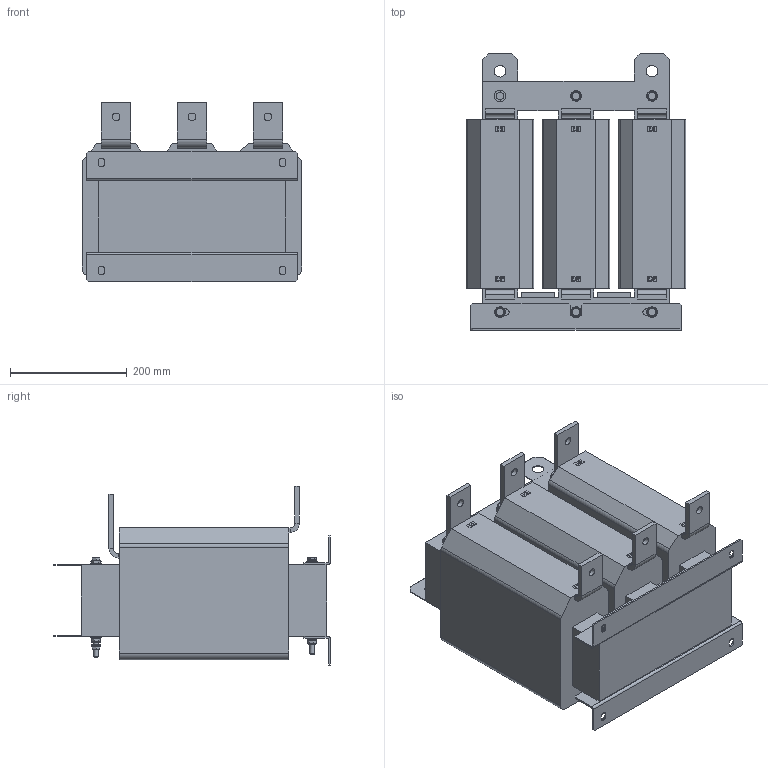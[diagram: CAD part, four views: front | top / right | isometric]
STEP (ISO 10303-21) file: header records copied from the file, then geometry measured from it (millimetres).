
FILE_DESCRIPTION(/* description */ ('raw material description'),/* implementation_level */ '2;1');
FILE_NAME(/* name */ 'P:\Construction\Filter_Marketing\RWK\RWK3044_RWK3062\RWK3044\RWK3044-1000-99-E0XXX.stp',/* time_stamp */ '2018-08-27T11:11:57+02:00',/* author */ ('Erika.Jenzer'),/* organization */ ('Schaffner EMV AG'),/* preprocessor_version */ 'ST-DEVELOPER v16.5',/* originating_system */ 'Autodesk Inventor 2017',/* authorisation */ '');
FILE_SCHEMA (('AUTOMOTIVE_DESIGN { 1 0 10303 214 3 1 1 }'));
Length unit declared in the file: millimetre
Products named in the file (1): RWK3044-1000-99-E0XXX
Bounding box: 376 x 473.5 x 306.8 mm (x, y, z)
Volume: 27205304.1 mm3; surface area: 1085873.4 mm2
Topology: 38 solids, 50 shells, 1054 faces, 2569 edges, 1693 vertices
Faces by surface type: plane 725, cylinder 163, cone 109, bspline 50, torus 7
Full cylindrical faces by diameter (mm): 8 x19, 8.2 x6, 8.4 x14, 9.9 x5, 10.5 x3, 11.4 x6, 13 x1, 13.5 x6, 16 x12, 18 x5, 20 x4
Entity records: 30791 total; most frequent: CARTESIAN_POINT 6135, ORIENTED_EDGE 4834, DIRECTION 4552, EDGE_CURVE 2410, LINE 1690, VECTOR 1690, VERTEX_POINT 1652, AXIS2_PLACEMENT_3D 1431
